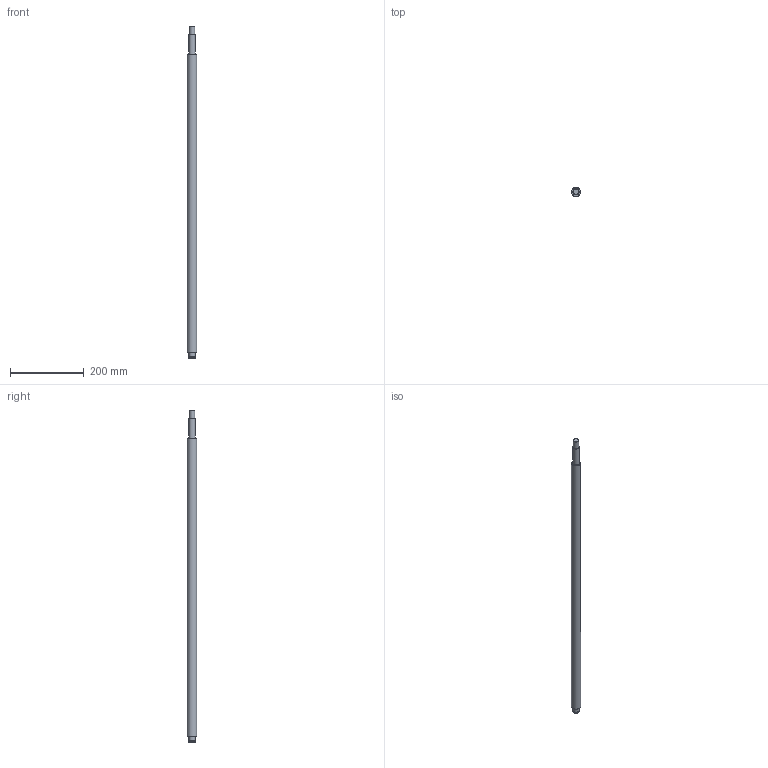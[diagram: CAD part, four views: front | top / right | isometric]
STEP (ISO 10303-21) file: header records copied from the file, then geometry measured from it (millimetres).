
FILE_DESCRIPTION(/* description */ (''),/* implementation_level */ '2;1');
FILE_NAME(/* name */ 'C:\Users\David Dillkötter\ownCloud\Kamp und Kötter\Artikel\_CAD-Dateien\CAD-Dateien-Shop\CAD-Dateien\Kugelumlaufspindel\2510\KUS2510x900.stp',/* time_stamp */ '2020-09-03T09:48:34+02:00',/* author */ ('David Dillkötter'),/* organization */ (''),/* preprocessor_version */ 'ST-DEVELOPER v18.1',/* originating_system */ 'Autodesk Inventor 2021',/* authorisation */ '');
FILE_SCHEMA (('AUTOMOTIVE_DESIGN { 1 0 10303 214 3 1 1 }'));
Length unit declared in the file: millimetre
Products named in the file (1): KUS2510_Gewindespindel
Bounding box: 25 x 25 x 900 mm (x, y, z)
Volume: 416323.5 mm3; surface area: 69222.2 mm2
Topology: 1 solids, 1 shells, 17 faces, 30 edges, 20 vertices
Faces by surface type: plane 7, cylinder 6, cone 4
Full cylindrical faces by diameter (mm): 15 x1, 16.2 x1, 17 x3, 25 x1
Entity records: 465 total; most frequent: DIRECTION 86, CARTESIAN_POINT 68, ORIENTED_EDGE 60, AXIS2_PLACEMENT_3D 38, EDGE_CURVE 30, EDGE_LOOP 22, CIRCLE 20, VERTEX_POINT 20
